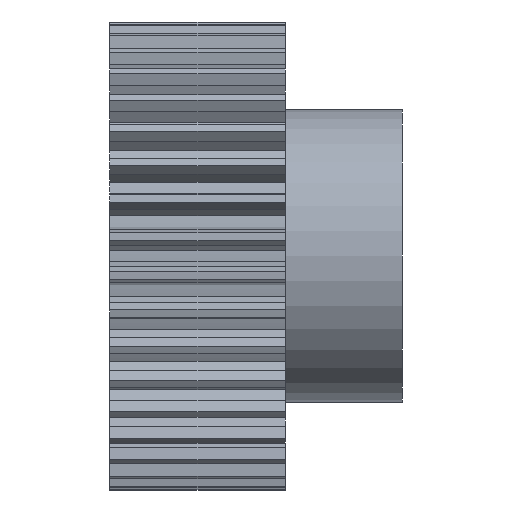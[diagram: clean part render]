
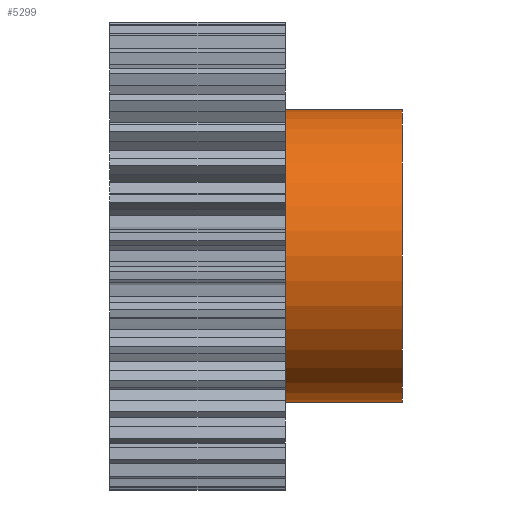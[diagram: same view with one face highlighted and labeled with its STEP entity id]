
A CAD part, front view. The second image highlights one B-rep face of the part: STEP entity #5299.
In plain terms, the highlighted cylindrical face has radius 12.5 mm (diameter 25 mm), a partial arc.
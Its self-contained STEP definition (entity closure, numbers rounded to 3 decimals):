
#34 = EDGE_CURVE ( 'NONE', #6338, #62, #1712, .T. ) ;
#53 = EDGE_CURVE ( 'NONE', #6291, #6336, #1734, .T. ) ;
#62 = VERTEX_POINT ( 'NONE', #1728 ) ;
#101 = EDGE_CURVE ( 'NONE', #6338, #6336, #1786, .T. ) ;
#1695 = AXIS2_PLACEMENT_3D ( 'NONE', #1700, #1742, #1741 ) ;
#1700 = CARTESIAN_POINT ( 'NONE',  ( 17.5, 0., 0. ) ) ;
#1712 = CIRCLE ( 'NONE', #1695, 12.5 ) ;
#1728 = CARTESIAN_POINT ( 'NONE',  ( 17.5, 0., 12.5 ) ) ;
#1731 = DIRECTION ( 'NONE',  ( 0., 0., 1. ) ) ;
#1734 = CIRCLE ( 'NONE', #1747, 12.5 ) ;
#1739 = DIRECTION ( 'NONE',  ( 1., 0., 0. ) ) ;
#1741 = DIRECTION ( 'NONE',  ( 0., 0., 1. ) ) ;
#1742 = DIRECTION ( 'NONE',  ( -1., 0., 0. ) ) ;
#1747 = AXIS2_PLACEMENT_3D ( 'NONE', #1749, #1739, #1731 ) ;
#1749 = CARTESIAN_POINT ( 'NONE',  ( 7.5, 0., 0. ) ) ;
#1783 = DIRECTION ( 'NONE',  ( -1., 0., 0. ) ) ;
#1784 = VECTOR ( 'NONE', #1783, 1000. ) ;
#1785 = CARTESIAN_POINT ( 'NONE',  ( 7.5, 0., -12.5 ) ) ;
#1786 = LINE ( 'NONE', #1785, #1784 ) ;
#4763 = CYLINDRICAL_SURFACE ( 'NONE', #4823, 12.5 ) ;
#4770 = FACE_OUTER_BOUND ( 'NONE', #5302, .T. ) ;
#4819 = DIRECTION ( 'NONE',  ( 0., 0., 1. ) ) ;
#4820 = DIRECTION ( 'NONE',  ( -1., 0., 0. ) ) ;
#4821 = CARTESIAN_POINT ( 'NONE',  ( 7.5, 0., 0. ) ) ;
#4823 = AXIS2_PLACEMENT_3D ( 'NONE', #4821, #4820, #4819 ) ;
#5292 = ORIENTED_EDGE ( 'NONE', *, *, #34, .T. ) ;
#5299 = ADVANCED_FACE ( 'NONE', ( #4770 ), #4763, .T. ) ;
#5300 = ORIENTED_EDGE ( 'NONE', *, *, #6290, .T. ) ;
#5301 = ORIENTED_EDGE ( 'NONE', *, *, #101, .F. ) ;
#5302 = EDGE_LOOP ( 'NONE', ( #5301, #5292, #5300, #5316 ) ) ;
#5316 = ORIENTED_EDGE ( 'NONE', *, *, #53, .T. ) ;
#6290 = EDGE_CURVE ( 'NONE', #62, #6291, #7435, .T. ) ;
#6291 = VERTEX_POINT ( 'NONE', #7437 ) ;
#6336 = VERTEX_POINT ( 'NONE', #7464 ) ;
#6338 = VERTEX_POINT ( 'NONE', #7463 ) ;
#7432 = DIRECTION ( 'NONE',  ( -1., 0., 0. ) ) ;
#7433 = VECTOR ( 'NONE', #7432, 1000. ) ;
#7434 = CARTESIAN_POINT ( 'NONE',  ( 7.5, 0., 12.5 ) ) ;
#7435 = LINE ( 'NONE', #7434, #7433 ) ;
#7437 = CARTESIAN_POINT ( 'NONE',  ( 7.5, 0., 12.5 ) ) ;
#7463 = CARTESIAN_POINT ( 'NONE',  ( 17.5, 0., -12.5 ) ) ;
#7464 = CARTESIAN_POINT ( 'NONE',  ( 7.5, 0., -12.5 ) ) ;
